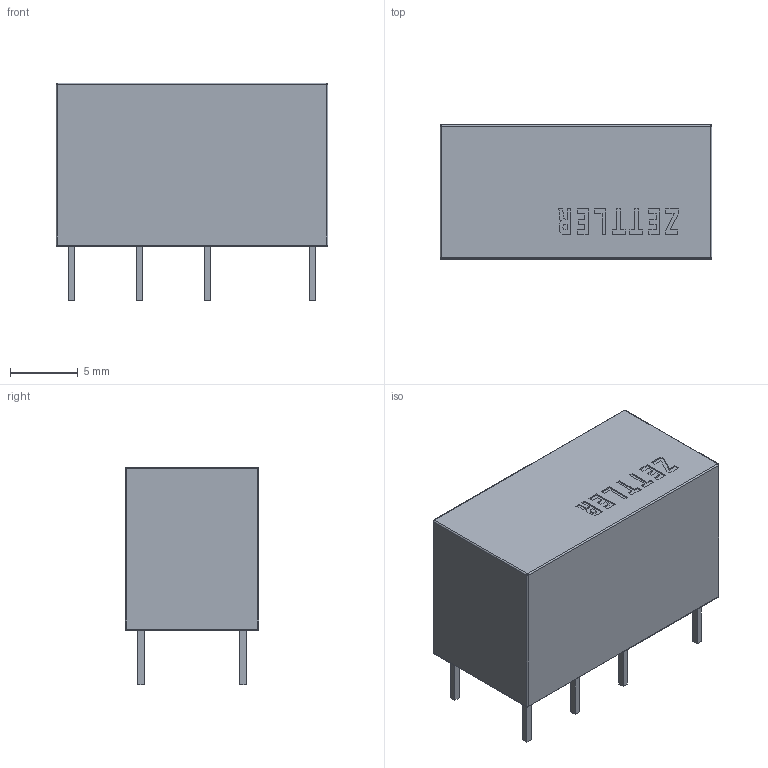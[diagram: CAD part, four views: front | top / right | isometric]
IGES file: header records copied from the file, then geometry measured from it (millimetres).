
Start section: START RECORD GO HERE.
Global section: file name: Relais_12V_Zettler_AZ832-2C-12DEA.igs; native system: IBM CATIA IGES - CATIA Version 5 Release 19 ; preprocessor: CATIA Version 5 Release 19 ; author: Administrator; organization: M0000815; date: 20230220.181526; units: millimetre
Bounding box: 20 x 9.85 x 16 mm (x, y, z)
Surface area: 1165.5 mm2 (no closed solid volume)
Topology: 0 solids, 0 shells, 168 faces, 856 edges, 852 vertices
Faces by surface type: plane 148, revolution 20
